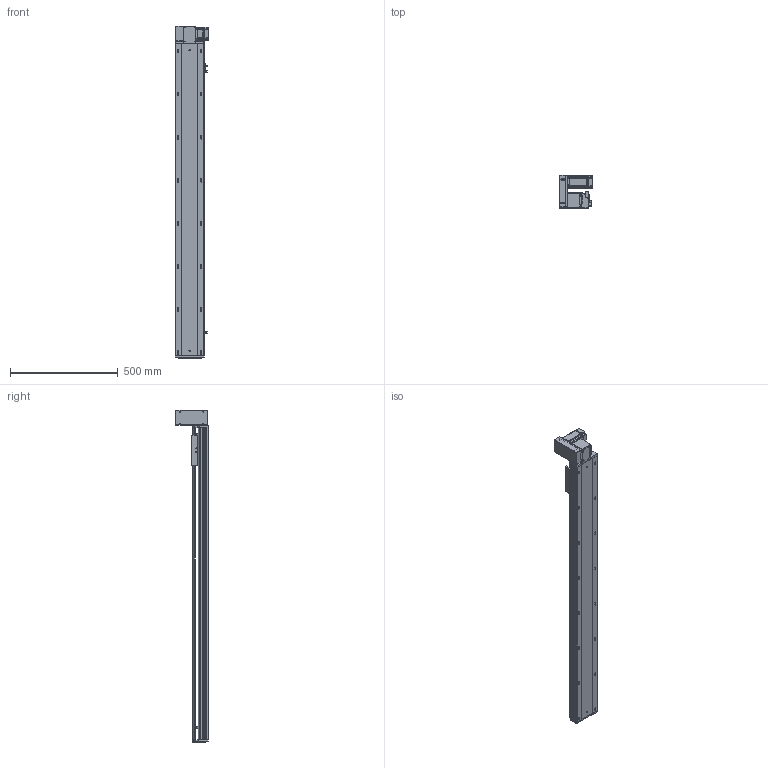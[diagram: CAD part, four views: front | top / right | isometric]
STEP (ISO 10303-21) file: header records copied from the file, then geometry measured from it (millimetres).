
FILE_DESCRIPTION (( 'STEP AP203' ), '1' );
FILE_NAME ('RY140-T-300-UL.SLDASM_1200.step', '2021-03-01T07:44:07', ( '盈信电脑' ), ( '东莞市道滘镇水果街19号' ), 'SwSTEP 2.0', 'SolidWorks 2012', '' );
FILE_SCHEMA (( 'CONFIG_CONTROL_DESIGN' ));
Length unit declared in the file: millimetre
Products named in the file (18): RY140-T翋肮謫裔啣; RY140-T-300-UL.SLDASM_1200; RY120-T蹟翐M4; RY140-T萇儂欶; 滅袉蝶18-10; RY120-T主同步轮轴承压盖; RY140-T萇儂假蚾啣; 侂狟400W侜督萇儂; RY140-T翋肮祭謫盓傅釱; 15; RY120-T肮祭湍揤踡輸2; RY120外置感应片(140共用）; 覜茼ん672; RY120-T肮祭湍揤踡輸1; RY140肮祭謫臏賑輸; RY140-T-300-DL倰第奻裔啣_1200; RY140綴裔啣; RY140-T-300-DL倰第菁釱_1200
Assembly tree (23 placements, depth 3):
  RY140-T-300-UL.SLDASM_1200
    RY140-T-300-DL倰第菁釱_1200
    RY140肮祭謫臏賑輸
    RY140-T-300-DL倰第奻裔啣_1200
    RY140綴裔啣
    覜茼ん672  x3
    RY120外置感应片(140共用）
    RY120-T肮祭湍揤踡輸2
    RY120-T肮祭湍揤踡輸1
    RY140-T翋肮祭謫盓傅釱
    RY140-T萇儂假蚾啣
    侂狟400W侜督萇儂
      15
    RY120-T主同步轮轴承压盖
    RY120-T蹟翐M4  x4
    RY140-T萇儂欶
    滅袉蝶18-10  x2
    RY140-T翋肮謫裔啣
Bounding box: 157 x 152.5 x 1543 mm (x, y, z)
Volume: 4469540 mm3; surface area: 1717631.9 mm2
Topology: 22 solids, 22 shells, 2715 faces, 7429 edges, 4756 vertices
Faces by surface type: plane 1385, cylinder 996, cone 234, bspline 100
Entity records: 85751 total; most frequent: CARTESIAN_POINT 20869, ORIENTED_EDGE 13314, DIRECTION 12689, EDGE_CURVE 6657, VERTEX_POINT 4355, LINE 4249, VECTOR 4249, AXIS2_PLACEMENT_3D 4220
